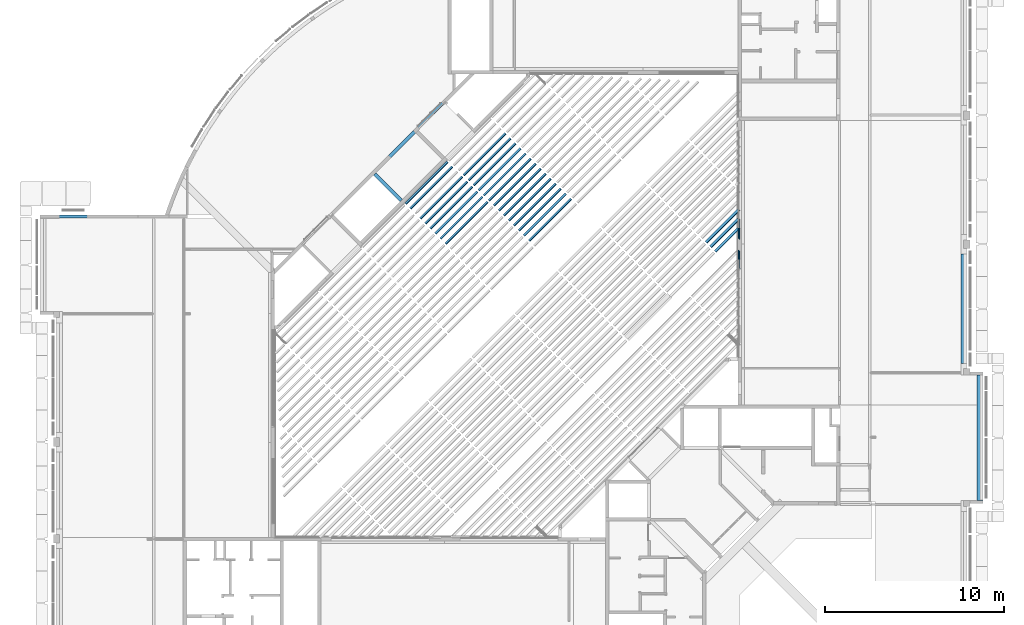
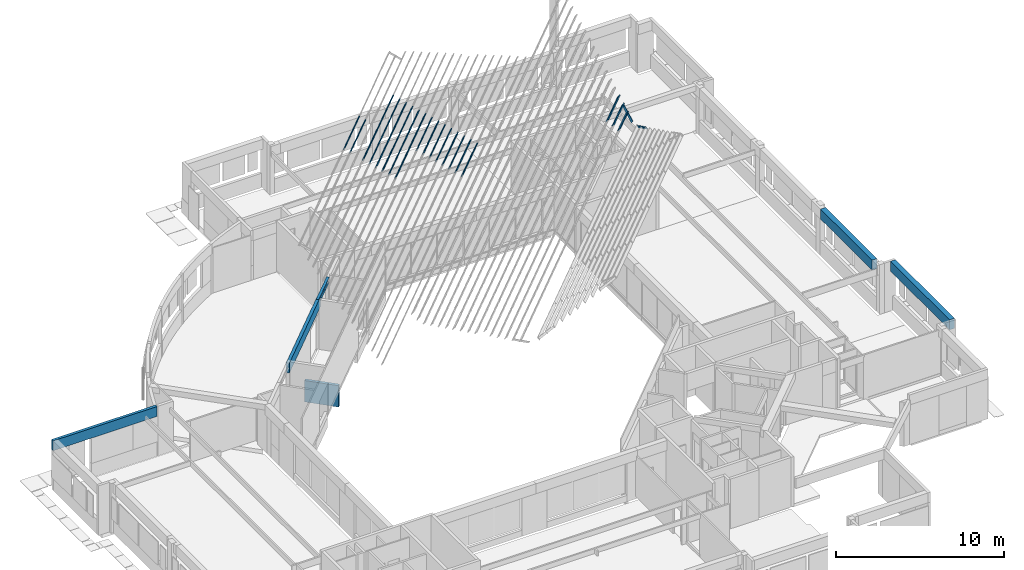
# One storey, part 11 of 37: 33 beams, 1 element without a shape of its own.
"""IFC4X3_ADD2 building model written with IfcOpenShell, lengths in millimetres."""

from ifc_helpers import new_model, si_unit, direction, frame, frame_2d, origin_with_axes, origin_2d_with_axis, place, context, subcontext, project, spatial, polyline, rectangle, outline, extrude, source, transform, mapped, material, type_object, type_shapes, element, aggregate, save


model = new_model("IFC4X3_ADD2")

# Units and contexts
model_context = context("Model", 3, precision=1e-05, world=origin_with_axes(), true_north=direction((0.0, 1.0)))
body_context = subcontext(model_context, "Body", "Model", "MODEL_VIEW")
ifc_project = project(units=[si_unit("LENGTHUNIT", "METRE", prefix="MILLI"), si_unit("AREAUNIT", "SQUARE_METRE"), si_unit("VOLUMEUNIT", "CUBIC_METRE"), si_unit("PLANEANGLEUNIT", "RADIAN"), si_unit("TIMEUNIT", "SECOND"), si_unit("MASSUNIT", "GRAM")], contexts=[model_context])

# Site, building, storey
site_placement = place(None, origin_with_axes())
site = spatial("IfcSite", under=ifc_project, at=site_placement, Name="Site", CompositionType="ELEMENT")
building_placement = place(site_placement, origin_with_axes())
building = spatial("IfcBuilding", under=site, at=building_placement, Name="IFC Building Story")
storey_placement = place(building_placement, frame((0.0, 0.0, 3600.0), z_axis=(0.0, 0.0, 1.0), x_axis=(1.0, 0.0, 0.0)))
storey = spatial("IfcBuildingStorey", under=building, at=storey_placement, Name="010", Elevation=3600.0)

# Assembly, beam
assembly_placement = place(storey_placement, frame((0.0, 0.0, -3600.0), z_axis=(0.0, 0.0, 1.0), x_axis=(1.0, 0.0, 0.0)))
assembly = element("IfcElementAssembly", 1, at=assembly_placement, inside=storey, Name="Structural Connections Assembly:IPE360 + plaat", ObjectType="Structural Connections Assembly:IPE360 + plaat", AssemblyPlace="NOTDEFINED", PredefinedType="USERDEFINED")
ifc_material_1 = material(Name="Metal - Steel - 345 MPa")
beam_type_1 = type_object("IfcBeamType", Name="IPE-Beams_IPE360", PredefinedType="NOTDEFINED")
shared_shape_1 = source(origin_with_axes(), body_context, "Body", "SweptSolid", [
    extrude(outline(polyline([(179.9999999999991, 85.0), (179.9999999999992, -84.9999999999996), (167.3000000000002, -84.9999999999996), (167.3000000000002, -4.0), (-167.2999999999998, -4.0), (-167.2999999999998, -85.0), (-179.9999999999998, -85.0), (-179.9999999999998, 85.0), (-167.2999999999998, 85.0), (-167.2999999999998, 3.999999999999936), (167.3000000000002, 3.999999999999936), (167.3000000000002, 85.0), (179.9999999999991, 85.0)])), frame((-925.267324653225, 0.0, 0.0), z_axis=(1.0, 0.0, 0.0), x_axis=(0.0, 0.0, 1.0)), (0.0, 0.0, 1.0), 2419.99999999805),
])
type_shapes(beam_type_1, [shared_shape_1])
beam_1_placement = place(assembly_placement, frame((-29732.7817459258, 36421.6338417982, 6830.0), z_axis=(0.0, 0.0, 1.0), x_axis=(-0.7071067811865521, -0.707106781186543, 0.0)))
beam_1 = element("IfcBeam", 2, at=beam_1_placement, type_object=beam_type_1, material=ifc_material_1, Name="IPE-Beams:IPE360", ObjectType="IPE360", PredefinedType="BEAM", context=body_context, shape_type="MappedRepresentation", body=[
    mapped(shared_shape_1, transform((0.0, 0.0, 0.0))),
])
aggregate(assembly, [beam_1])

# Beams
ifc_material_2 = material(Name="BB_Beton_Bestaand")
beam_type_2 = type_object("IfcBeamType", Name="BB_XX_Betonbalk_ rechthoekig_ center-center_SFB_340 x 720 mm101", PredefinedType="NOTDEFINED")
shared_shape_2 = source(origin_with_axes(), body_context, "Body", "SweptSolid", [
    extrude(rectangle(XDim=6109.99999999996, YDim=340.0, at=origin_2d_with_axis()), frame((-5.002220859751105e-12, 0.0, -360.0), z_axis=(0.0, 0.0, 1.0), x_axis=(1.0, 0.0, 0.0)), (0.0, 0.0, 1.0), 720.0),
])
type_shapes(beam_type_2, [shared_shape_2])
beam_2_placement = place(storey_placement, frame((-75.0, 25480.0, 3040.0), z_axis=(0.0, 0.0, 1.0), x_axis=(0.0, -1.0, 0.0)))
element("IfcBeam", 3, at=beam_2_placement, inside=storey, type_object=beam_type_2, material=ifc_material_2, Name="BB_XX_Betonbalk, rechthoekig, center-center_SFB:340 x 720 mm", ObjectType="340 x 720 mm", PredefinedType="BEAM", context=body_context, shape_type="MappedRepresentation", body=[
    mapped(shared_shape_2, transform((0.0, 0.0, 0.0))),
])
beam_type_3 = type_object("IfcBeamType", Name="BB_XX_Betonbalk_ rechthoekig_ center-center_SFB_340 x 720 mm117", PredefinedType="NOTDEFINED")
shared_shape_3 = source(origin_with_axes(), body_context, "Body", "SweptSolid", [
    extrude(rectangle(XDim=7010.0000000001, YDim=340.0, at=origin_2d_with_axis()), frame((-5.002220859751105e-12, 0.0, -360.0), z_axis=(0.0, 0.0, 1.0), x_axis=(1.0, 0.0, 0.0)), (0.0, 0.0, 1.0), 720.0),
])
type_shapes(beam_type_3, [shared_shape_3])
beam_3_placement = place(storey_placement, frame((825.0, 18280.0, 3040.0), z_axis=(0.0, 0.0, 1.0), x_axis=(0.0, -1.0, 0.0)))
element("IfcBeam", 4, at=beam_3_placement, inside=storey, type_object=beam_type_3, material=ifc_material_2, Name="BB_XX_Betonbalk, rechthoekig, center-center_SFB:340 x 720 mm", ObjectType="340 x 720 mm", PredefinedType="BEAM", context=body_context, shape_type="MappedRepresentation", body=[
    mapped(shared_shape_3, transform((0.0, 0.0, 0.0))),
])
beam_type_4 = type_object("IfcBeamType", Name="BB_XX_Betonbalk_ rechthoekig_ center-center_SFB_190 x 720 mm19", PredefinedType="NOTDEFINED")
shared_shape_4 = source(origin_with_axes(), body_context, "Body", "SweptSolid", [
    extrude(rectangle(XDim=7121.36956381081, YDim=190.0, at=origin_2d_with_axis()), frame((-5.002220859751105e-12, 0.0, -360.0), z_axis=(0.0, 0.0, 1.0), x_axis=(1.0, 0.0, 0.0)), (0.0, 0.0, 1.0), 720.0),
])
type_shapes(beam_type_4, [shared_shape_4])
beam_4_placement = place(storey_placement, frame((-48134.3152180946, 30629.8698058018, 3040.0), z_axis=(0.0, 0.0, 1.0), x_axis=(1.0, 0.0, 0.0)))
element("IfcBeam", 5, at=beam_4_placement, inside=storey, type_object=beam_type_4, material=ifc_material_2, Name="BB_XX_Betonbalk, rechthoekig, center-center_SFB:190 x 720 mm", ObjectType="190 x 720 mm", PredefinedType="BEAM", context=body_context, shape_type="MappedRepresentation", body=[
    mapped(shared_shape_4, transform((0.0, 0.0, 0.0))),
])
beam_type_5 = type_object("IfcBeamType", Name="BB_XX_Betonbalk_ rechthoekig_ center-center_SFB_190 x 1550 mm", PredefinedType="NOTDEFINED")
shared_shape_5 = source(origin_with_axes(), body_context, "Body", "SweptSolid", [
    extrude(rectangle(XDim=2099.99999999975, YDim=190.0, at=origin_2d_with_axis()), frame((-1.250555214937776e-10, 0.0, -775.0), z_axis=(0.0, 0.0, 1.0), x_axis=(1.0, 0.0, 0.0)), (0.0, 0.0, 1.0), 1550.0),
])
type_shapes(beam_type_5, [shared_shape_5])
beam_5_placement = place(storey_placement, frame((-32264.0349954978, 32264.0349954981, -975.0), z_axis=(0.0, 0.0, 1.0), x_axis=(-0.7071067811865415, 0.7071067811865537, 0.0)))
element("IfcBeam", 6, at=beam_5_placement, inside=storey, type_object=beam_type_5, material=ifc_material_2, Name="BB_XX_Betonbalk, rechthoekig, center-center_SFB:190 x 1550 mm", ObjectType="190 x 1550 mm", PredefinedType="BEAM", context=body_context, shape_type="MappedRepresentation", body=[
    mapped(shared_shape_5, transform((0.0, 0.0, 0.0))),
])
beam_type_6 = type_object("IfcBeamType", Name="BB_XX_Betonbalk_ rechthoekig_ center-center_SFB_200 x 720 mm25", PredefinedType="NOTDEFINED")
shared_shape_6 = source(origin_with_axes(), body_context, "Body", "SweptSolid", [
    extrude(rectangle(XDim=7109.99999939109, YDim=200.0, at=frame_2d((0.0, 0.0), x_axis=(0.7071067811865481, 0.7071067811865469))), frame((-33077.20779407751, 33077.2077936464, 6280.0), z_axis=(0.0, 0.0, 1.0), x_axis=(1.0, 0.0, 0.0)), (0.0, 0.0, 1.0), 719.999999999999),
])
type_shapes(beam_type_6, [shared_shape_6])
beam_6_placement = place(storey_placement, frame((0.0, 0.0, -3600.0), z_axis=(0.0, 0.0, 1.0), x_axis=(1.0, 0.0, 0.0)))
element("IfcBeam", 7, at=beam_6_placement, inside=storey, type_object=beam_type_6, material=ifc_material_2, Name="BB_XX_Betonbalk, rechthoekig, center-center_SFB:200 x 720 mm", ObjectType="200 x 720 mm", PredefinedType="BEAM", context=body_context, shape_type="MappedRepresentation", body=[
    mapped(shared_shape_6, transform((0.0, 0.0, 0.0))),
])
ifc_material_3 = material(Name="GVH_i2_naaldhout_generiek")
beam_type_7 = type_object("IfcBeamType", Name="28_SF_hout_rechthoekig_40 x 230_151", PredefinedType="NOTDEFINED")
shared_shape_7 = source(origin_with_axes(), body_context, "Body", "SweptSolid", [
    extrude(rectangle(XDim=3317.27000000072, YDim=40.0000000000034, at=origin_2d_with_axis()), frame((0.9025468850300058, 0.0, -115.0), z_axis=(0.0, 0.0, 1.0), x_axis=(1.0, 0.0, 0.0)), (0.0, 0.0, 1.0), 230.0),
])
type_shapes(beam_type_7, [shared_shape_7])
beam_7_placement = place(storey_placement, frame((-27867.1406778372, 30284.7882211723, 15408.1783867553), z_axis=(0.311937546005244, -0.311937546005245, 0.8974351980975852), x_axis=(-0.7071067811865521, -0.707106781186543, 0.0)))
element("IfcBeam", 8, at=beam_7_placement, inside=storey, type_object=beam_type_7, material=ifc_material_3, Name="28_SF_hout_rechthoekig:40 x 230", ObjectType="40 x 230", PredefinedType="BEAM", context=body_context, shape_type="MappedRepresentation", body=[
    mapped(shared_shape_7, transform((0.0, 0.0, 0.0))),
])
beam_type_8 = type_object("IfcBeamType", Name="28_SF_hout_rechthoekig_40 x 230_153", PredefinedType="NOTDEFINED")
shared_shape_8 = source(origin_with_axes(), body_context, "Body", "SweptSolid", [
    extrude(rectangle(XDim=3317.27000000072, YDim=40.0000000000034, at=origin_2d_with_axis()), frame((0.9024604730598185, 0.0, -115.0), z_axis=(0.0, 0.0, 1.0), x_axis=(1.0, 0.0, 0.0)), (0.0, 0.0, 1.0), 230.0),
])
type_shapes(beam_type_8, [shared_shape_8])
beam_8_placement = place(storey_placement, frame((-28148.1338151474, 30565.7813584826, 15603.5179720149), z_axis=(0.311937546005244, -0.311937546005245, 0.8974351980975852), x_axis=(-0.7071067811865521, -0.707106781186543, 0.0)))
element("IfcBeam", 9, at=beam_8_placement, inside=storey, type_object=beam_type_8, material=ifc_material_3, Name="28_SF_hout_rechthoekig:40 x 230", ObjectType="40 x 230", PredefinedType="BEAM", context=body_context, shape_type="MappedRepresentation", body=[
    mapped(shared_shape_8, transform((0.0, 0.0, 0.0))),
])
beam_type_9 = type_object("IfcBeamType", Name="28_SF_hout_rechthoekig_40 x 230_155", PredefinedType="NOTDEFINED")
shared_shape_9 = source(origin_with_axes(), body_context, "Body", "SweptSolid", [
    extrude(rectangle(XDim=3317.27000000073, YDim=40.0000000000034, at=origin_2d_with_axis()), frame((0.9023740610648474, 0.0, -115.0), z_axis=(0.0, 0.0, 1.0), x_axis=(1.0, 0.0, 0.0)), (0.0, 0.0, 1.0), 230.0),
])
type_shapes(beam_type_9, [shared_shape_9])
beam_9_placement = place(storey_placement, frame((-28429.1269524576, 30846.7744957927, 15798.8575572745), z_axis=(0.311937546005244, -0.311937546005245, 0.8974351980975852), x_axis=(-0.7071067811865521, -0.707106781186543, 0.0)))
element("IfcBeam", 10, at=beam_9_placement, inside=storey, type_object=beam_type_9, material=ifc_material_3, Name="28_SF_hout_rechthoekig:40 x 230", ObjectType="40 x 230", PredefinedType="BEAM", context=body_context, shape_type="MappedRepresentation", body=[
    mapped(shared_shape_9, transform((0.0, 0.0, 0.0))),
])
beam_type_10 = type_object("IfcBeamType", Name="28_SF_hout_rechthoekig_40 x 230_157", PredefinedType="NOTDEFINED")
shared_shape_10 = source(origin_with_axes(), body_context, "Body", "SweptSolid", [
    extrude(rectangle(XDim=3317.27000000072, YDim=40.0000000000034, at=origin_2d_with_axis()), frame((0.9022876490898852, 0.0, -115.0), z_axis=(0.0, 0.0, 1.0), x_axis=(1.0, 0.0, 0.0)), (0.0, 0.0, 1.0), 230.0000000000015),
])
type_shapes(beam_type_10, [shared_shape_10])
beam_10_placement = place(storey_placement, frame((-28710.1200897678, 31127.7676331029, 15994.197142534), z_axis=(0.311937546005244, -0.311937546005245, 0.8974351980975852), x_axis=(-0.7071067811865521, -0.707106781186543, 0.0)))
element("IfcBeam", 11, at=beam_10_placement, inside=storey, type_object=beam_type_10, material=ifc_material_3, Name="28_SF_hout_rechthoekig:40 x 230", ObjectType="40 x 230", PredefinedType="BEAM", context=body_context, shape_type="MappedRepresentation", body=[
    mapped(shared_shape_10, transform((0.0, 0.0, 0.0))),
])
beam_type_11 = type_object("IfcBeamType", Name="28_SF_hout_rechthoekig_40 x 230_159", PredefinedType="NOTDEFINED")
shared_shape_11 = source(origin_with_axes(), body_context, "Body", "SweptSolid", [
    extrude(rectangle(XDim=3317.27000000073, YDim=40.0000000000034, at=origin_2d_with_axis()), frame((0.9022012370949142, 0.0, -115.0), z_axis=(0.0, 0.0, 1.0), x_axis=(1.0, 0.0, 0.0)), (0.0, 0.0, 1.0), 230.0000000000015),
])
type_shapes(beam_type_11, [shared_shape_11])
beam_11_placement = place(storey_placement, frame((-28991.113227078, 31408.7607704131, 16189.5367277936), z_axis=(0.311937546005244, -0.311937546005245, 0.8974351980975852), x_axis=(-0.7071067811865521, -0.707106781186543, 0.0)))
element("IfcBeam", 12, at=beam_11_placement, inside=storey, type_object=beam_type_11, material=ifc_material_3, Name="28_SF_hout_rechthoekig:40 x 230", ObjectType="40 x 230", PredefinedType="BEAM", context=body_context, shape_type="MappedRepresentation", body=[
    mapped(shared_shape_11, transform((0.0, 0.0, 0.0))),
])
beam_type_12 = type_object("IfcBeamType", Name="28_SF_hout_rechthoekig_40 x 230_161", PredefinedType="NOTDEFINED")
shared_shape_12 = source(origin_with_axes(), body_context, "Body", "SweptSolid", [
    extrude(rectangle(XDim=3317.27000000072, YDim=40.0000000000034, at=origin_2d_with_axis()), frame((0.902114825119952, 0.0, -115.0), z_axis=(0.0, 0.0, 1.0), x_axis=(1.0, 0.0, 0.0)), (0.0, 0.0, 1.0), 230.0000000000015),
])
type_shapes(beam_type_12, [shared_shape_12])
beam_12_placement = place(storey_placement, frame((-29272.1063643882, 31689.7539077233, 16384.8763130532), z_axis=(0.311937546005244, -0.311937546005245, 0.8974351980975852), x_axis=(-0.7071067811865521, -0.707106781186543, 0.0)))
element("IfcBeam", 13, at=beam_12_placement, inside=storey, type_object=beam_type_12, material=ifc_material_3, Name="28_SF_hout_rechthoekig:40 x 230", ObjectType="40 x 230", PredefinedType="BEAM", context=body_context, shape_type="MappedRepresentation", body=[
    mapped(shared_shape_12, transform((0.0, 0.0, 0.0))),
])
beam_type_13 = type_object("IfcBeamType", Name="28_SF_hout_rechthoekig_40 x 230_165", PredefinedType="NOTDEFINED")
shared_shape_13 = source(origin_with_axes(), body_context, "Body", "SweptSolid", [
    extrude(rectangle(XDim=3317.27000000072, YDim=40.0000000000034, at=origin_2d_with_axis()), frame((0.9019420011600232, 0.0, -115.0), z_axis=(0.0, 0.0, 1.0), x_axis=(1.0, 0.0, 0.0)), (0.0, 0.0, 1.0), 230.0000000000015),
])
type_shapes(beam_type_13, [shared_shape_13])
beam_13_placement = place(storey_placement, frame((-29834.0926390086, 32251.7401823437, 16775.5554835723), z_axis=(0.311937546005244, -0.311937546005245, 0.8974351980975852), x_axis=(-0.7071067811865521, -0.707106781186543, 0.0)))
element("IfcBeam", 14, at=beam_13_placement, inside=storey, type_object=beam_type_13, material=ifc_material_3, Name="28_SF_hout_rechthoekig:40 x 230", ObjectType="40 x 230", PredefinedType="BEAM", context=body_context, shape_type="MappedRepresentation", body=[
    mapped(shared_shape_13, transform((0.0, 0.0, 0.0))),
])
beam_type_14 = type_object("IfcBeamType", Name="28_SF_hout_rechthoekig_40 x 230_169", PredefinedType="NOTDEFINED")
shared_shape_14 = source(origin_with_axes(), body_context, "Body", "SweptSolid", [
    extrude(rectangle(XDim=3317.27999999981, YDim=40.0000000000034, at=origin_2d_with_axis()), frame((0.9082382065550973, 0.0, -115.0), z_axis=(0.0, 0.0, 1.0), x_axis=(1.0, 0.0, 0.0)), (0.0, 0.0, 1.0), 230.0),
])
type_shapes(beam_type_14, [shared_shape_14])
beam_14_placement = place(storey_placement, frame((-23202.8137181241, 30453.2249839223, 13845.4617046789), z_axis=(0.311937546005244, -0.311937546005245, 0.8974351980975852), x_axis=(-0.7071067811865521, -0.707106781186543, 0.0)))
element("IfcBeam", 15, at=beam_14_placement, inside=storey, type_object=beam_type_14, material=ifc_material_3, Name="28_SF_hout_rechthoekig:40 x 230", ObjectType="40 x 230", PredefinedType="BEAM", context=body_context, shape_type="MappedRepresentation", body=[
    mapped(shared_shape_14, transform((0.0, 0.0, 0.0))),
])
beam_type_15 = type_object("IfcBeamType", Name="28_SF_hout_rechthoekig_40 x 230_171", PredefinedType="NOTDEFINED")
shared_shape_15 = source(origin_with_axes(), body_context, "Body", "SweptSolid", [
    extrude(rectangle(XDim=3317.27999999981, YDim=40.0000000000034, at=origin_2d_with_axis()), frame((0.9081517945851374, 0.0, -115.0), z_axis=(0.0, 0.0, 1.0), x_axis=(1.0, 0.0, 0.0)), (0.0, 0.0, 1.0), 230.0),
])
type_shapes(beam_type_15, [shared_shape_15])
beam_15_placement = place(storey_placement, frame((-23483.8068554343, 30734.2181212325, 14040.8012899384), z_axis=(0.311937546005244, -0.311937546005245, 0.8974351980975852), x_axis=(-0.7071067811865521, -0.707106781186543, 0.0)))
element("IfcBeam", 16, at=beam_15_placement, inside=storey, type_object=beam_type_15, material=ifc_material_3, Name="28_SF_hout_rechthoekig:40 x 230", ObjectType="40 x 230", PredefinedType="BEAM", context=body_context, shape_type="MappedRepresentation", body=[
    mapped(shared_shape_15, transform((0.0, 0.0, 0.0))),
])
beam_type_16 = type_object("IfcBeamType", Name="28_SF_hout_rechthoekig_40 x 230_173", PredefinedType="NOTDEFINED")
shared_shape_16 = source(origin_with_axes(), body_context, "Body", "SweptSolid", [
    extrude(rectangle(XDim=3317.27999999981, YDim=40.0000000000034, at=origin_2d_with_axis()), frame((0.9080653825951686, 0.0, -115.0), z_axis=(0.0, 0.0, 1.0), x_axis=(1.0, 0.0, 0.0)), (0.0, 0.0, 1.0), 230.0),
])
type_shapes(beam_type_16, [shared_shape_16])
beam_16_placement = place(storey_placement, frame((-23764.7999927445, 31015.2112585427, 14236.140875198), z_axis=(0.311937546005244, -0.311937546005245, 0.8974351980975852), x_axis=(-0.7071067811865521, -0.707106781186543, 0.0)))
element("IfcBeam", 17, at=beam_16_placement, inside=storey, type_object=beam_type_16, material=ifc_material_3, Name="28_SF_hout_rechthoekig:40 x 230", ObjectType="40 x 230", PredefinedType="BEAM", context=body_context, shape_type="MappedRepresentation", body=[
    mapped(shared_shape_16, transform((0.0, 0.0, 0.0))),
])
beam_type_17 = type_object("IfcBeamType", Name="28_SF_hout_rechthoekig_40 x 230_175", PredefinedType="NOTDEFINED")
shared_shape_17 = source(origin_with_axes(), body_context, "Body", "SweptSolid", [
    extrude(rectangle(XDim=3317.27999999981, YDim=40.0000000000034, at=origin_2d_with_axis()), frame((0.9079789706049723, 0.0, -115.0), z_axis=(0.0, 0.0, 1.0), x_axis=(1.0, 0.0, 0.0)), (0.0, 0.0, 1.0), 230.0),
])
type_shapes(beam_type_17, [shared_shape_17])
beam_17_placement = place(storey_placement, frame((-24045.7931300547, 31296.2043958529, 14431.4804604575), z_axis=(0.311937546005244, -0.311937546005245, 0.8974351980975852), x_axis=(-0.7071067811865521, -0.707106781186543, 0.0)))
element("IfcBeam", 18, at=beam_17_placement, inside=storey, type_object=beam_type_17, material=ifc_material_3, Name="28_SF_hout_rechthoekig:40 x 230", ObjectType="40 x 230", PredefinedType="BEAM", context=body_context, shape_type="MappedRepresentation", body=[
    mapped(shared_shape_17, transform((0.0, 0.0, 0.0))),
])
beam_type_18 = type_object("IfcBeamType", Name="28_SF_hout_rechthoekig_40 x 230_177", PredefinedType="NOTDEFINED")
shared_shape_18 = source(origin_with_axes(), body_context, "Body", "SweptSolid", [
    extrude(rectangle(XDim=3317.27999999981, YDim=40.0000000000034, at=origin_2d_with_axis()), frame((0.907892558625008, 0.0, -115.0), z_axis=(0.0, 0.0, 1.0), x_axis=(1.0, 0.0, 0.0)), (0.0, 0.0, 1.0), 230.0),
])
type_shapes(beam_type_18, [shared_shape_18])
beam_18_placement = place(storey_placement, frame((-24326.7862673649, 31577.197533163, 14626.8200457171), z_axis=(0.311937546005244, -0.311937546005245, 0.8974351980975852), x_axis=(-0.7071067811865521, -0.707106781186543, 0.0)))
element("IfcBeam", 19, at=beam_18_placement, inside=storey, type_object=beam_type_18, material=ifc_material_3, Name="28_SF_hout_rechthoekig:40 x 230", ObjectType="40 x 230", PredefinedType="BEAM", context=body_context, shape_type="MappedRepresentation", body=[
    mapped(shared_shape_18, transform((0.0, 0.0, 0.0))),
])
beam_type_19 = type_object("IfcBeamType", Name="28_SF_hout_rechthoekig_40 x 230_179", PredefinedType="NOTDEFINED")
shared_shape_19 = source(origin_with_axes(), body_context, "Body", "SweptSolid", [
    extrude(rectangle(XDim=3317.27999999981, YDim=40.0000000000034, at=origin_2d_with_axis()), frame((0.9078061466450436, 0.0, -115.0), z_axis=(0.0, 0.0, 1.0), x_axis=(1.0, 0.0, 0.0)), (0.0, 0.0, 1.0), 230.0),
])
type_shapes(beam_type_19, [shared_shape_19])
beam_19_placement = place(storey_placement, frame((-24607.7794046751, 31858.1906704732, 14822.1596309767), z_axis=(0.311937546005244, -0.311937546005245, 0.8974351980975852), x_axis=(-0.7071067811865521, -0.707106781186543, 0.0)))
element("IfcBeam", 20, at=beam_19_placement, inside=storey, type_object=beam_type_19, material=ifc_material_3, Name="28_SF_hout_rechthoekig:40 x 230", ObjectType="40 x 230", PredefinedType="BEAM", context=body_context, shape_type="MappedRepresentation", body=[
    mapped(shared_shape_19, transform((0.0, 0.0, 0.0))),
])
beam_type_20 = type_object("IfcBeamType", Name="28_SF_hout_rechthoekig_40 x 230_181", PredefinedType="NOTDEFINED")
shared_shape_20 = source(origin_with_axes(), body_context, "Body", "SweptSolid", [
    extrude(rectangle(XDim=3317.27999999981, YDim=40.0000000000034, at=origin_2d_with_axis()), frame((0.9077197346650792, 0.0, -115.0), z_axis=(0.0, 0.0, 1.0), x_axis=(1.0, 0.0, 0.0)), (0.0, 0.0, 1.0), 230.0),
])
type_shapes(beam_type_20, [shared_shape_20])
beam_20_placement = place(storey_placement, frame((-24888.7725419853, 32139.1838077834, 15017.4992162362), z_axis=(0.311937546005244, -0.311937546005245, 0.8974351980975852), x_axis=(-0.7071067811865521, -0.707106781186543, 0.0)))
element("IfcBeam", 21, at=beam_20_placement, inside=storey, type_object=beam_type_20, material=ifc_material_3, Name="28_SF_hout_rechthoekig:40 x 230", ObjectType="40 x 230", PredefinedType="BEAM", context=body_context, shape_type="MappedRepresentation", body=[
    mapped(shared_shape_20, transform((0.0, 0.0, 0.0))),
])
beam_type_21 = type_object("IfcBeamType", Name="28_SF_hout_rechthoekig_40 x 230_183", PredefinedType="NOTDEFINED")
shared_shape_21 = source(origin_with_axes(), body_context, "Body", "SweptSolid", [
    extrude(rectangle(XDim=3317.27999999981, YDim=40.0000000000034, at=origin_2d_with_axis()), frame((0.9076333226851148, 0.0, -115.0), z_axis=(0.0, 0.0, 1.0), x_axis=(1.0, 0.0, 0.0)), (0.0, 0.0, 1.0), 230.0),
])
type_shapes(beam_type_21, [shared_shape_21])
beam_21_placement = place(storey_placement, frame((-25169.7656792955, 32420.1769450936, 15212.8388014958), z_axis=(0.311937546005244, -0.311937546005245, 0.8974351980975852), x_axis=(-0.7071067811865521, -0.707106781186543, 0.0)))
element("IfcBeam", 22, at=beam_21_placement, inside=storey, type_object=beam_type_21, material=ifc_material_3, Name="28_SF_hout_rechthoekig:40 x 230", ObjectType="40 x 230", PredefinedType="BEAM", context=body_context, shape_type="MappedRepresentation", body=[
    mapped(shared_shape_21, transform((0.0, 0.0, 0.0))),
])
beam_type_22 = type_object("IfcBeamType", Name="28_SF_hout_rechthoekig_40 x 230_185", PredefinedType="NOTDEFINED")
shared_shape_22 = source(origin_with_axes(), body_context, "Body", "SweptSolid", [
    extrude(rectangle(XDim=3317.27999999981, YDim=40.0000000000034, at=origin_2d_with_axis()), frame((0.9075469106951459, 0.0, -115.0), z_axis=(0.0, 0.0, 1.0), x_axis=(1.0, 0.0, 0.0)), (0.0, 0.0, 1.0), 230.0),
])
type_shapes(beam_type_22, [shared_shape_22])
beam_22_placement = place(storey_placement, frame((-25450.7588166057, 32701.1700824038, 15408.1783867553), z_axis=(0.311937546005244, -0.311937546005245, 0.8974351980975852), x_axis=(-0.7071067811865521, -0.707106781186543, 0.0)))
element("IfcBeam", 23, at=beam_22_placement, inside=storey, type_object=beam_type_22, material=ifc_material_3, Name="28_SF_hout_rechthoekig:40 x 230", ObjectType="40 x 230", PredefinedType="BEAM", context=body_context, shape_type="MappedRepresentation", body=[
    mapped(shared_shape_22, transform((0.0, 0.0, 0.0))),
])
beam_type_23 = type_object("IfcBeamType", Name="28_SF_hout_rechthoekig_40 x 230_187", PredefinedType="NOTDEFINED")
shared_shape_23 = source(origin_with_axes(), body_context, "Body", "SweptSolid", [
    extrude(rectangle(XDim=3317.27999999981, YDim=40.0000000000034, at=origin_2d_with_axis()), frame((0.9074604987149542, 0.0, -115.0), z_axis=(0.0, 0.0, 1.0), x_axis=(1.0, 0.0, 0.0)), (0.0, 0.0, 1.0), 230.0),
])
type_shapes(beam_type_23, [shared_shape_23])
beam_23_placement = place(storey_placement, frame((-25731.7519539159, 32982.163219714, 15603.5179720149), z_axis=(0.311937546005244, -0.311937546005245, 0.8974351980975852), x_axis=(-0.7071067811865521, -0.707106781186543, 0.0)))
element("IfcBeam", 24, at=beam_23_placement, inside=storey, type_object=beam_type_23, material=ifc_material_3, Name="28_SF_hout_rechthoekig:40 x 230", ObjectType="40 x 230", PredefinedType="BEAM", context=body_context, shape_type="MappedRepresentation", body=[
    mapped(shared_shape_23, transform((0.0, 0.0, 0.0))),
])
beam_type_24 = type_object("IfcBeamType", Name="28_SF_hout_rechthoekig_40 x 230_189", PredefinedType="NOTDEFINED")
shared_shape_24 = source(origin_with_axes(), body_context, "Body", "SweptSolid", [
    extrude(rectangle(XDim=3317.27999999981, YDim=40.0000000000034, at=origin_2d_with_axis()), frame((0.9073740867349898, 0.0, -115.0), z_axis=(0.0, 0.0, 1.0), x_axis=(1.0, 0.0, 0.0)), (0.0, 0.0, 1.0), 230.0),
])
type_shapes(beam_type_24, [shared_shape_24])
beam_24_placement = place(storey_placement, frame((-26012.7450912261, 33263.1563570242, 15798.8575572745), z_axis=(0.311937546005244, -0.311937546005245, 0.8974351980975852), x_axis=(-0.7071067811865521, -0.707106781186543, 0.0)))
element("IfcBeam", 25, at=beam_24_placement, inside=storey, type_object=beam_type_24, material=ifc_material_3, Name="28_SF_hout_rechthoekig:40 x 230", ObjectType="40 x 230", PredefinedType="BEAM", context=body_context, shape_type="MappedRepresentation", body=[
    mapped(shared_shape_24, transform((0.0, 0.0, 0.0))),
])
beam_type_25 = type_object("IfcBeamType", Name="28_SF_hout_rechthoekig_40 x 230_191", PredefinedType="NOTDEFINED")
shared_shape_25 = source(origin_with_axes(), body_context, "Body", "SweptSolid", [
    extrude(rectangle(XDim=3317.27999999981, YDim=40.0000000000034, at=origin_2d_with_axis()), frame((0.9072876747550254, 0.0, -115.0), z_axis=(0.0, 0.0, 1.0), x_axis=(1.0, 0.0, 0.0)), (0.0, 0.0, 1.0), 230.0000000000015),
])
type_shapes(beam_type_25, [shared_shape_25])
beam_25_placement = place(storey_placement, frame((-26293.7382285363, 33544.1494943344, 15994.197142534), z_axis=(0.311937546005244, -0.311937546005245, 0.8974351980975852), x_axis=(-0.7071067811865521, -0.707106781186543, 0.0)))
element("IfcBeam", 26, at=beam_25_placement, inside=storey, type_object=beam_type_25, material=ifc_material_3, Name="28_SF_hout_rechthoekig:40 x 230", ObjectType="40 x 230", PredefinedType="BEAM", context=body_context, shape_type="MappedRepresentation", body=[
    mapped(shared_shape_25, transform((0.0, 0.0, 0.0))),
])
beam_type_26 = type_object("IfcBeamType", Name="28_SF_hout_rechthoekig_40 x 230_193", PredefinedType="NOTDEFINED")
shared_shape_26 = source(origin_with_axes(), body_context, "Body", "SweptSolid", [
    extrude(rectangle(XDim=3317.27999999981, YDim=40.0000000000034, at=origin_2d_with_axis()), frame((0.9072012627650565, 0.0, -115.0), z_axis=(0.0, 0.0, 1.0), x_axis=(1.0, 0.0, 0.0)), (0.0, 0.0, 1.0), 230.0000000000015),
])
type_shapes(beam_type_26, [shared_shape_26])
beam_26_placement = place(storey_placement, frame((-26574.7313658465, 33825.1426316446, 16189.5367277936), z_axis=(0.311937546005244, -0.311937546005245, 0.8974351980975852), x_axis=(-0.7071067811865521, -0.707106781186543, 0.0)))
element("IfcBeam", 27, at=beam_26_placement, inside=storey, type_object=beam_type_26, material=ifc_material_3, Name="28_SF_hout_rechthoekig:40 x 230", ObjectType="40 x 230", PredefinedType="BEAM", context=body_context, shape_type="MappedRepresentation", body=[
    mapped(shared_shape_26, transform((0.0, 0.0, 0.0))),
])
beam_type_27 = type_object("IfcBeamType", Name="28_SF_hout_rechthoekig_40 x 230_195", PredefinedType="NOTDEFINED")
shared_shape_27 = source(origin_with_axes(), body_context, "Body", "SweptSolid", [
    extrude(rectangle(XDim=3317.27999999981, YDim=40.0000000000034, at=origin_2d_with_axis()), frame((0.9071148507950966, 0.0, -115.0), z_axis=(0.0, 0.0, 1.0), x_axis=(1.0, 0.0, 0.0)), (0.0, 0.0, 1.0), 230.0000000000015),
])
type_shapes(beam_type_27, [shared_shape_27])
beam_27_placement = place(storey_placement, frame((-26855.7245031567, 34106.1357689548, 16384.8763130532), z_axis=(0.311937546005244, -0.311937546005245, 0.8974351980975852), x_axis=(-0.7071067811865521, -0.707106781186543, 0.0)))
element("IfcBeam", 28, at=beam_27_placement, inside=storey, type_object=beam_type_27, material=ifc_material_3, Name="28_SF_hout_rechthoekig:40 x 230", ObjectType="40 x 230", PredefinedType="BEAM", context=body_context, shape_type="MappedRepresentation", body=[
    mapped(shared_shape_27, transform((0.0, 0.0, 0.0))),
])
beam_type_28 = type_object("IfcBeamType", Name="28_SF_hout_rechthoekig_40 x 230_239", PredefinedType="NOTDEFINED")
shared_shape_28 = source(origin_with_axes(), body_context, "Body", "SweptSolid", [
    extrude(rectangle(XDim=3317.27000000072, YDim=40.0000000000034, at=origin_2d_with_axis()), frame((0.9018600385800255, 0.0, -115.0), z_axis=(0.0, 0.0, 1.0), x_axis=(1.0, 0.0, 0.0)), (0.0, 0.0, 1.0), 229.9999999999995),
])
type_shapes(beam_type_28, [shared_shape_28])
beam_28_placement = place(storey_placement, frame((-30100.6172949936, 32518.2648383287, 16960.8369330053), z_axis=(0.311937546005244, -0.311937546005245, 0.8974351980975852), x_axis=(-0.7071067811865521, -0.707106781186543, 0.0)))
element("IfcBeam", 29, at=beam_28_placement, inside=storey, type_object=beam_type_28, material=ifc_material_3, Name="28_SF_hout_rechthoekig:40 x 230", ObjectType="40 x 230", PredefinedType="BEAM", context=body_context, shape_type="MappedRepresentation", body=[
    mapped(shared_shape_28, transform((0.0, 0.0, 0.0))),
])
beam_type_29 = type_object("IfcBeamType", Name="28_SF_hout_rechthoekig_40 x 230_521", PredefinedType="NOTDEFINED")
shared_shape_29 = source(origin_with_axes(), body_context, "Body", "SweptSolid", [
    extrude(rectangle(XDim=2608.96644674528, YDim=40.0000000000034, at=origin_2d_with_axis()), frame((382.714689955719, 0.0, -115.0), z_axis=(0.0, 0.0, 1.0), x_axis=(1.0, 0.0, 0.0)), (0.0, 0.0, 1.0), 230.0),
])
type_shapes(beam_type_29, [shared_shape_29])
beam_29_placement = place(storey_placement, frame((-13288.728319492, 30382.6116165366, 14417.1281961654), z_axis=(0.4307932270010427, -0.4307932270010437, 0.7929907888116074), x_axis=(-0.7071067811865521, -0.707106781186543, 0.0)))
element("IfcBeam", 30, at=beam_29_placement, inside=storey, type_object=beam_type_29, material=ifc_material_3, Name="28_SF_hout_rechthoekig:40 x 230", ObjectType="40 x 230", PredefinedType="BEAM", context=body_context, shape_type="MappedRepresentation", body=[
    mapped(shared_shape_29, transform((0.0, 0.0, 0.0))),
])
beam_type_30 = type_object("IfcBeamType", Name="28_SF_hout_rechthoekig_40 x 230_523", PredefinedType="NOTDEFINED")
shared_shape_30 = source(origin_with_axes(), body_context, "Body", "SweptSolid", [
    extrude(rectangle(XDim=2249.74113664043, YDim=40.0000000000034, at=origin_2d_with_axis()), frame((562.3273450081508, 0.0, -115.0), z_axis=(0.0, 0.0, 1.0), x_axis=(1.0, 0.0, 0.0)), (0.0, 0.0, 1.0), 230.0),
])
type_shapes(beam_type_30, [shared_shape_30])
beam_30_placement = place(storey_placement, frame((-13034.7180081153, 30128.6013051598, 14141.1453644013), z_axis=(0.4307932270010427, -0.4307932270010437, 0.7929907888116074), x_axis=(-0.7071067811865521, -0.707106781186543, 0.0)))
element("IfcBeam", 31, at=beam_30_placement, inside=storey, type_object=beam_type_30, material=ifc_material_3, Name="28_SF_hout_rechthoekig:40 x 230", ObjectType="40 x 230", PredefinedType="BEAM", context=body_context, shape_type="MappedRepresentation", body=[
    mapped(shared_shape_30, transform((0.0, 0.0, 0.0))),
])
beam_type_31 = type_object("IfcBeamType", Name="28_SF_hout_rechthoekig_40 x 230_525", PredefinedType="NOTDEFINED")
shared_shape_31 = source(origin_with_axes(), body_context, "Body", "SweptSolid", [
    extrude(rectangle(XDim=1865.23238125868, YDim=40.0000000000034, at=origin_2d_with_axis()), frame((754.5817226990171, 0.0, -115.0), z_axis=(0.0, 0.0, 1.0), x_axis=(1.0, 0.0, 0.0)), (0.0, 0.0, 1.0), 230.0),
])
type_shapes(beam_type_31, [shared_shape_31])
beam_31_placement = place(storey_placement, frame((-12780.7076967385, 29874.5909937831, 13865.1625326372), z_axis=(0.4307932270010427, -0.4307932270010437, 0.7929907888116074), x_axis=(-0.7071067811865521, -0.707106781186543, 0.0)))
element("IfcBeam", 32, at=beam_31_placement, inside=storey, type_object=beam_type_31, material=ifc_material_3, Name="28_SF_hout_rechthoekig:40 x 230", ObjectType="40 x 230", PredefinedType="BEAM", context=body_context, shape_type="MappedRepresentation", body=[
    mapped(shared_shape_31, transform((0.0, 0.0, 0.0))),
])
beam_type_32 = type_object("IfcBeamType", Name="28_SF_hout_rechthoekig_40 x 150_5", PredefinedType="NOTDEFINED")
shared_shape_32 = source(origin_with_axes(), body_context, "Body", "SweptSolid", [
    extrude(rectangle(XDim=1048.9561402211, YDim=40.0000000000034, at=origin_2d_with_axis()), frame((1293.891606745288, 0.0, -75.0), z_axis=(0.0, 0.0, 1.0), x_axis=(1.0, 0.0, 0.0)), (0.0, 0.0, 1.0), 150.0),
])
type_shapes(beam_type_32, [shared_shape_32])
beam_32_placement = place(storey_placement, frame((-12647.6144894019, 29406.3600332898, 13265.1813764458), z_axis=(-0.4034060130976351, 0.4034085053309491, 0.8212948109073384), x_axis=(0.006322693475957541, -0.8963189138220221, 0.443364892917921)))
element("IfcBeam", 33, at=beam_32_placement, inside=storey, type_object=beam_type_32, material=ifc_material_3, Name="28_SF_hout_rechthoekig:40 x 150", ObjectType="40 x 150", PredefinedType="BEAM", context=body_context, shape_type="MappedRepresentation", body=[
    mapped(shared_shape_32, transform((0.0, 0.0, 0.0))),
])
beam_type_33 = type_object("IfcBeamType", Name="28_SF_hout_rechthoekig_40 x 150_9", PredefinedType="NOTDEFINED")
shared_shape_33 = source(origin_with_axes(), body_context, "Body", "SweptSolid", [
    extrude(rectangle(XDim=1210.80855710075, YDim=40.0000000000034, at=origin_2d_with_axis()), frame((404.8567791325, 0.0, -75.0), z_axis=(0.0, 0.0, 1.0), x_axis=(1.0, 0.0, 0.0)), (0.0, 0.0, 1.0), 149.9999999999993),
])
type_shapes(beam_type_33, [shared_shape_33])
beam_33_placement = place(storey_placement, frame((-12656.9722833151, 29575.4053840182, 13629.1049201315), z_axis=(0.4307932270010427, -0.4307932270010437, 0.7929907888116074), x_axis=(0.0, 0.8787081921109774, 0.4773593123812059)))
element("IfcBeam", 34, at=beam_33_placement, inside=storey, type_object=beam_type_33, material=ifc_material_3, Name="28_SF_hout_rechthoekig:40 x 150", ObjectType="40 x 150", PredefinedType="BEAM", context=body_context, shape_type="MappedRepresentation", body=[
    mapped(shared_shape_33, transform((0.0, 0.0, 0.0))),
])

save(model, "model.ifc")
